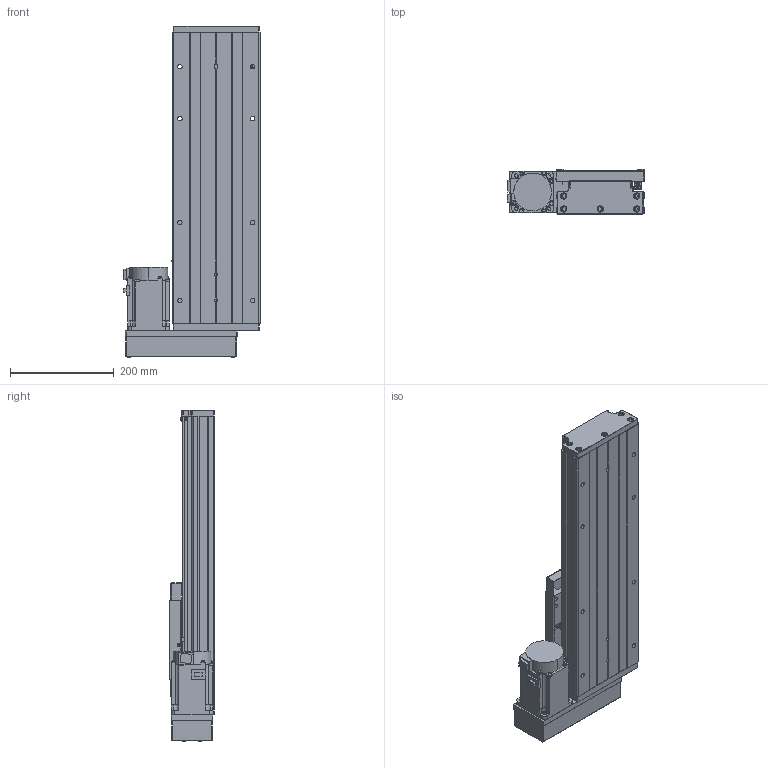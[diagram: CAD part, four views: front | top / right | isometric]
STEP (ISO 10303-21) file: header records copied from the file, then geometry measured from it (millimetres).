
FILE_DESCRIPTION (( 'STEP AP203' ), '1' );
FILE_NAME ('GTH17-300-BL-M75-C4.step', '2023-06-30T12:00:10', ( '微软用户' ), ( '微软中国' ), 'SwSTEP 2.0', 'SolidWorks 2020', '' );
FILE_SCHEMA (( 'CONFIG_CONTROL_DESIGN' ));
Length unit declared in the file: millimetre
Products named in the file (19): GTH17-300-BL-M75-C4; CTHA60-017; GBT 70.2-M3¡Á5_M3¡Á6; EE_SX911P_R; す晦芛蹟隊 M3℅5; GTH17-001_300; CTHA60-016; HG-KN73J-S100; GTH17-002_GTH17-002; GBT 70.1-M3℅5; GBT 70.2-M4¡Á45_M4¡Á35; GTH17-004; GBT77-2000 M3×3; GTH17-015-2_CTHA86-015-2; GTH17-005; GBT 70.1-M6¡Á20_M6¡Á20; GTH17-033; GB1155-6X6; GTH17-031
Assembly tree (58 placements, depth 2):
  GTH17-300-BL-M75-C4
    GTH17-001_300
    GTH17-002_GTH17-002
    GTH17-004
    GTH17-005
    GB1155-6X6  x2
    CTHA60-017  x3
    EE_SX911P_R  x3
    CTHA60-016  x2
    GBT 70.1-M3℅5  x6
    GBT77-2000 M3×3  x6
    GBT 70.1-M6¡Á20_M6¡Á20  x10
    GTH17-031
    GBT 70.2-M3¡Á5_M3¡Á6  x8
    す晦芛蹟隊 M3℅5  x6
    HG-KN73J-S100
    GBT 70.2-M4¡Á45_M4¡Á35  x4
    GTH17-015-2_CTHA86-015-2
    GTH17-033
Bounding box: 264.3 x 87 x 638.2 mm (x, y, z)
Volume: 5751495.9 mm3; surface area: 894174.6 mm2
Topology: 61 solids, 61 shells, 2429 faces, 5797 edges, 3587 vertices
Faces by surface type: plane 1306, cylinder 650, cone 297, torus 124, sphere 32, bspline 20
Entity records: 44122 total; most frequent: CARTESIAN_POINT 10266, DIRECTION 6361, ORIENTED_EDGE 6306, EDGE_CURVE 3153, AXIS2_PLACEMENT_3D 2160, VECTOR 2041, LINE 2041, VERTEX_POINT 1999
